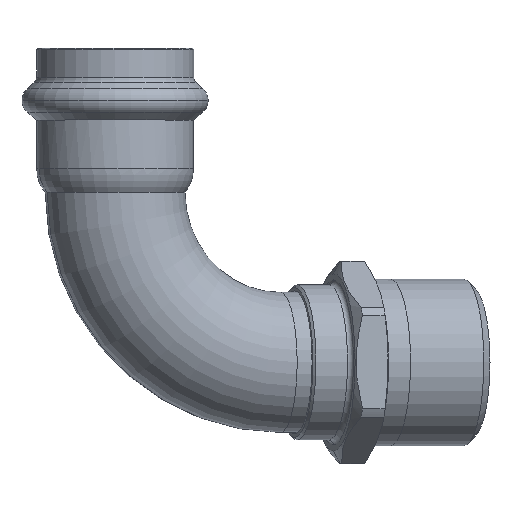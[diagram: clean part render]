
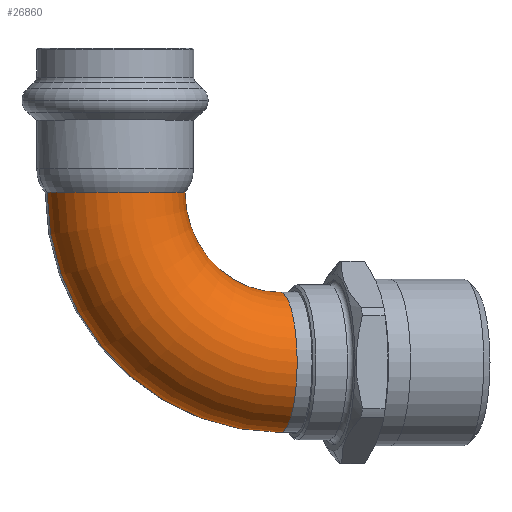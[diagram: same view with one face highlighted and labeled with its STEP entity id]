
A CAD part, top view. The second image highlights one B-rep face of the part: STEP entity #26860.
In plain terms, the highlighted toroidal (fillet/blend) face has major radius 34 mm and minor radius 14 mm.
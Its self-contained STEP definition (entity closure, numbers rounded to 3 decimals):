
#15750=CARTESIAN_POINT('',(677.118,76.126,
0.));
#15760=VERTEX_POINT('',#15750);
#15790=CARTESIAN_POINT('',(691.118,76.126,
0.));
#15800=DIRECTION('',(0.,-1.,0.));
#15810=DIRECTION('',(1.,0.,0.));
#15820=AXIS2_PLACEMENT_3D('',#15790,#15800,#15810);
#15830=CIRCLE('',#15820,14.);
#15840=CARTESIAN_POINT('',(705.118,76.126,
0.));
#15850=VERTEX_POINT('',#15840);
#15860=EDGE_CURVE('',#15850,#15760,#15830,.T.);
#15980=CARTESIAN_POINT('',(725.118,76.126,
0.));
#15990=DIRECTION('',(0.,0.,1.));
#16000=DIRECTION('',(0.,1.,0.));
#16010=AXIS2_PLACEMENT_3D('',#15980,#15990,#16000);
#16020=TOROIDAL_SURFACE('',#16010,34.,14.);
#16030=CARTESIAN_POINT('',(725.118,76.126,
0.));
#16040=DIRECTION('',(0.,0.,1.));
#16050=DIRECTION('',(0.,1.,0.));
#16060=AXIS2_PLACEMENT_3D('',#16030,#16040,#16050);
#16070=CIRCLE('',#16060,20.);
#16080=CARTESIAN_POINT('',(725.118,96.126,
0.));
#16090=VERTEX_POINT('',#16080);
#16100=EDGE_CURVE('',#16090,#15850,#16070,.T.);
#16170=CARTESIAN_POINT('',(725.118,124.126,
0.));
#16180=VERTEX_POINT('',#16170);
#16210=CARTESIAN_POINT('',(725.118,76.126,
0.));
#16220=DIRECTION('',(0.,0.,1.));
#16230=DIRECTION('',(0.,1.,0.));
#16240=AXIS2_PLACEMENT_3D('',#16210,#16220,#16230);
#16250=CIRCLE('',#16240,48.);
#16260=EDGE_CURVE('',#16180,#15760,#16250,.T.);
#26740=ORIENTED_EDGE('',*,*,#15860,.F.);
#26750=ORIENTED_EDGE('',*,*,#16260,.T.);
#26760=CARTESIAN_POINT('',(725.118,110.126,
0.));
#26770=DIRECTION('',(-1.,0.,0.));
#26780=DIRECTION('',(0.,-1.,0.));
#26790=AXIS2_PLACEMENT_3D('',#26760,#26770,#26780);
#26800=CIRCLE('',#26790,14.);
#26810=EDGE_CURVE('',#16090,#16180,#26800,.T.);
#26820=ORIENTED_EDGE('',*,*,#26810,.T.);
#26830=ORIENTED_EDGE('',*,*,#16100,.F.);
#26840=EDGE_LOOP('',(#26830,#26820,#26750,#26740));
#26850=FACE_OUTER_BOUND('',#26840,.T.);
#26860=ADVANCED_FACE('',(#26850),#16020,.T.);
